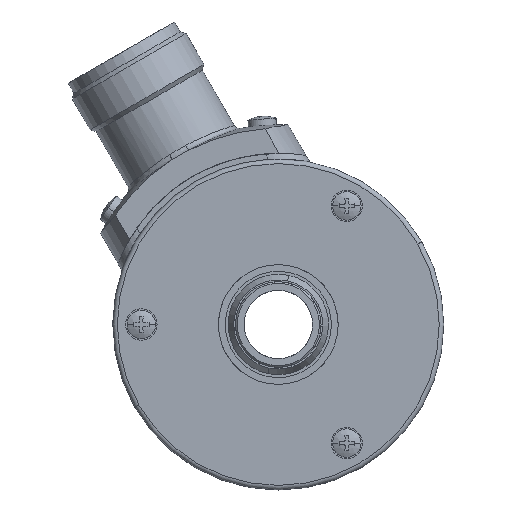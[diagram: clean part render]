
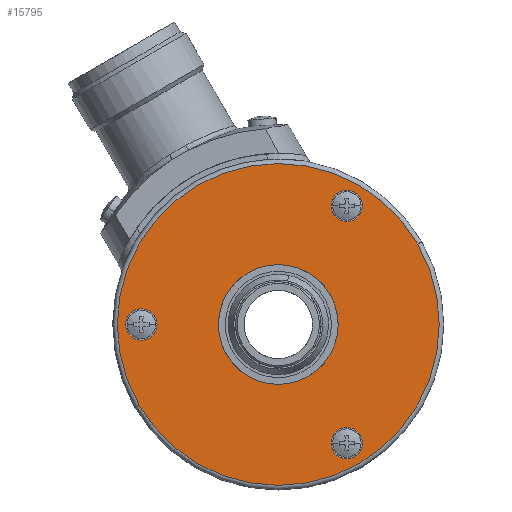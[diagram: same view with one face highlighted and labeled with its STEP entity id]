
A CAD part, left-side view. The second image highlights one B-rep face of the part: STEP entity #15795.
In plain terms, the highlighted planar face has unit normal (-1, 0, 0).
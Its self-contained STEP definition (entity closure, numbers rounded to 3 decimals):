
#2933 = CARTESIAN_POINT ( 'NONE',  ( 0., 9.093, -5.25 ) ) ;
#5674 = CIRCLE ( 'NONE', #6437, 28.2 ) ;
#5692 = CIRCLE ( 'NONE', #6442, 2.75 ) ;
#5698 = CIRCLE ( 'NONE', #6444, 2.75 ) ;
#5704 = CIRCLE ( 'NONE', #6446, 2.75 ) ;
#5718 = CIRCLE ( 'NONE', #6452, 10.5 ) ;
#5785 = CIRCLE ( 'NONE', #6483, 10.5 ) ;
#5786 = CIRCLE ( 'NONE', #6484, 28.2 ) ;
#5787 = CIRCLE ( 'NONE', #6485, 2.75 ) ;
#5788 = CIRCLE ( 'NONE', #6486, 2.75 ) ;
#5789 = CIRCLE ( 'NONE', #6487, 2.75 ) ;
#6437 = AXIS2_PLACEMENT_3D ( 'NONE', #7736, #7737, #7738 ) ;
#6442 = AXIS2_PLACEMENT_3D ( 'NONE', #7834, #7835, #7836 ) ;
#6444 = AXIS2_PLACEMENT_3D ( 'NONE', #7844, #7845, #7846 ) ;
#6446 = AXIS2_PLACEMENT_3D ( 'NONE', #7855, #7856, #7857 ) ;
#6452 = AXIS2_PLACEMENT_3D ( 'NONE', #7971, #7972, #7973 ) ;
#6483 = AXIS2_PLACEMENT_3D ( 'NONE', #8259, #8260, #8261 ) ;
#6484 = AXIS2_PLACEMENT_3D ( 'NONE', #8262, #8263, #8264 ) ;
#6485 = AXIS2_PLACEMENT_3D ( 'NONE', #8265, #8266, #8267 ) ;
#6486 = AXIS2_PLACEMENT_3D ( 'NONE', #8268, #8269, #8270 ) ;
#6487 = AXIS2_PLACEMENT_3D ( 'NONE', #8271, #8272, #8273 ) ;
#7736 = CARTESIAN_POINT ( 'NONE',  ( 0., 0., 0. ) ) ;
#7737 = DIRECTION ( 'NONE',  ( -1., 0., 0. ) ) ;
#7738 = DIRECTION ( 'NONE',  ( 0., -0.866, 0.5 ) ) ;
#7834 = CARTESIAN_POINT ( 'NONE',  ( 0., -12., 20.785 ) ) ;
#7835 = DIRECTION ( 'NONE',  ( -1., 0., 0. ) ) ;
#7836 = DIRECTION ( 'NONE',  ( 0., 0.866, 0.5 ) ) ;
#7844 = CARTESIAN_POINT ( 'NONE',  ( 0., 24., 0. ) ) ;
#7845 = DIRECTION ( 'NONE',  ( -1., 0., 0. ) ) ;
#7846 = DIRECTION ( 'NONE',  ( 0., 0., -1. ) ) ;
#7855 = CARTESIAN_POINT ( 'NONE',  ( 0., -12., -20.785 ) ) ;
#7856 = DIRECTION ( 'NONE',  ( -1., 0., 0. ) ) ;
#7857 = DIRECTION ( 'NONE',  ( 0., -0.866, 0.5 ) ) ;
#7971 = CARTESIAN_POINT ( 'NONE',  ( 0., 0., 0. ) ) ;
#7972 = DIRECTION ( 'NONE',  ( -1., 0., 0. ) ) ;
#7973 = DIRECTION ( 'NONE',  ( 0., -0.866, 0.5 ) ) ;
#8259 = CARTESIAN_POINT ( 'NONE',  ( 0., 0., 0. ) ) ;
#8260 = DIRECTION ( 'NONE',  ( -1., 0., 0. ) ) ;
#8261 = DIRECTION ( 'NONE',  ( 0., -0.866, 0.5 ) ) ;
#8262 = CARTESIAN_POINT ( 'NONE',  ( 0., 0., 0. ) ) ;
#8263 = DIRECTION ( 'NONE',  ( -1., 0., 0. ) ) ;
#8264 = DIRECTION ( 'NONE',  ( 0., -0.866, 0.5 ) ) ;
#8265 = CARTESIAN_POINT ( 'NONE',  ( 0., -12., 20.785 ) ) ;
#8266 = DIRECTION ( 'NONE',  ( -1., 0., 0. ) ) ;
#8267 = DIRECTION ( 'NONE',  ( 0., 0.866, 0.5 ) ) ;
#8268 = CARTESIAN_POINT ( 'NONE',  ( 0., 24., 0. ) ) ;
#8269 = DIRECTION ( 'NONE',  ( -1., 0., 0. ) ) ;
#8270 = DIRECTION ( 'NONE',  ( 0., 0., -1. ) ) ;
#8271 = CARTESIAN_POINT ( 'NONE',  ( 0., -12., -20.785 ) ) ;
#8272 = DIRECTION ( 'NONE',  ( -1., 0., 0. ) ) ;
#8273 = DIRECTION ( 'NONE',  ( 0., -0.866, 0.5 ) ) ;
#12050 = CARTESIAN_POINT ( 'NONE',  ( 0., -9.093, 5.25 ) ) ;
#13903 = CARTESIAN_POINT ( 'NONE',  ( 0., 26.382, -1.375 ) ) ;
#13959 = CARTESIAN_POINT ( 'NONE',  ( 0., -14.382, -19.41 ) ) ;
#14033 = CARTESIAN_POINT ( 'NONE',  ( 0., -9.618, 19.41 ) ) ;
#14063 = CARTESIAN_POINT ( 'NONE',  ( 0., -14.382, 22.16 ) ) ;
#14144 = CARTESIAN_POINT ( 'NONE',  ( 0., -9.618, -22.16 ) ) ;
#14145 = CARTESIAN_POINT ( 'NONE',  ( 0., 24.422, -14.1 ) ) ;
#14173 = CARTESIAN_POINT ( 'NONE',  ( 0., 21.618, 1.375 ) ) ;
#14255 = CARTESIAN_POINT ( 'NONE',  ( 0., -24.422, 14.1 ) ) ;
#15051 = ORIENTED_EDGE ( 'NONE', *, *, #19945, .F. ) ;
#15061 = ORIENTED_EDGE ( 'NONE', *, *, #19946, .F. ) ;
#15066 = ORIENTED_EDGE ( 'NONE', *, *, #19872, .F. ) ;
#15067 = ORIENTED_EDGE ( 'NONE', *, *, #19943, .T. ) ;
#15071 = ORIENTED_EDGE ( 'NONE', *, *, #19944, .F. ) ;
#15073 = ORIENTED_EDGE ( 'NONE', *, *, #19942, .F. ) ;
#15075 = ORIENTED_EDGE ( 'NONE', *, *, #19852, .T. ) ;
#15082 = ORIENTED_EDGE ( 'NONE', *, *, #19888, .F. ) ;
#15084 = ORIENTED_EDGE ( 'NONE', *, *, #19868, .F. ) ;
#15093 = ORIENTED_EDGE ( 'NONE', *, *, #19876, .F. ) ;
#15214 = CARTESIAN_POINT ( 'NONE',  ( 0., -14.5, -25.115 ) ) ;
#15246 = DIRECTION ( 'NONE',  ( -1., 0., 0. ) ) ;
#15391 = PLANE ( 'NONE',  #23148 ) ;
#15466 = DIRECTION ( 'NONE',  ( 0., -0.866, 0.5 ) ) ;
#15795 = ADVANCED_FACE ( 'NONE', ( #25918, #25911, #25919, #25917, #25915 ), #15391, .T. ) ;
#18662 = VERTEX_POINT ( 'NONE', #2933 ) ;
#19852 = EDGE_CURVE ( 'NONE', #24866, #24745, #5674, .T. ) ;
#19868 = EDGE_CURVE ( 'NONE', #24633, #24663, #5692, .T. ) ;
#19872 = EDGE_CURVE ( 'NONE', #24503, #24788, #5698, .T. ) ;
#19876 = EDGE_CURVE ( 'NONE', #24744, #24559, #5704, .T. ) ;
#19888 = EDGE_CURVE ( 'NONE', #18662, #20704, #5718, .T. ) ;
#19942 = EDGE_CURVE ( 'NONE', #20704, #18662, #5785, .T. ) ;
#19943 = EDGE_CURVE ( 'NONE', #24745, #24866, #5786, .T. ) ;
#19944 = EDGE_CURVE ( 'NONE', #24663, #24633, #5787, .T. ) ;
#19945 = EDGE_CURVE ( 'NONE', #24788, #24503, #5788, .T. ) ;
#19946 = EDGE_CURVE ( 'NONE', #24559, #24744, #5789, .T. ) ;
#20704 = VERTEX_POINT ( 'NONE', #12050 ) ;
#23148 = AXIS2_PLACEMENT_3D ( 'NONE', #15214, #15246, #15466 ) ;
#24503 = VERTEX_POINT ( 'NONE', #13903 ) ;
#24559 = VERTEX_POINT ( 'NONE', #13959 ) ;
#24633 = VERTEX_POINT ( 'NONE', #14033 ) ;
#24663 = VERTEX_POINT ( 'NONE', #14063 ) ;
#24744 = VERTEX_POINT ( 'NONE', #14144 ) ;
#24745 = VERTEX_POINT ( 'NONE', #14145 ) ;
#24788 = VERTEX_POINT ( 'NONE', #14173 ) ;
#24866 = VERTEX_POINT ( 'NONE', #14255 ) ;
#25028 = EDGE_LOOP ( 'NONE', ( #15071, #15084 ) ) ;
#25232 = EDGE_LOOP ( 'NONE', ( #15061, #15093 ) ) ;
#25323 = EDGE_LOOP ( 'NONE', ( #15051, #15066 ) ) ;
#25331 = EDGE_LOOP ( 'NONE', ( #15075, #15067 ) ) ;
#25374 = EDGE_LOOP ( 'NONE', ( #15073, #15082 ) ) ;
#25911 = FACE_BOUND ( 'NONE', #25028, .T. ) ;
#25915 = FACE_BOUND ( 'NONE', #25374, .T. ) ;
#25917 = FACE_BOUND ( 'NONE', #25232, .T. ) ;
#25918 = FACE_OUTER_BOUND ( 'NONE', #25331, .T. ) ;
#25919 = FACE_BOUND ( 'NONE', #25323, .T. ) ;
